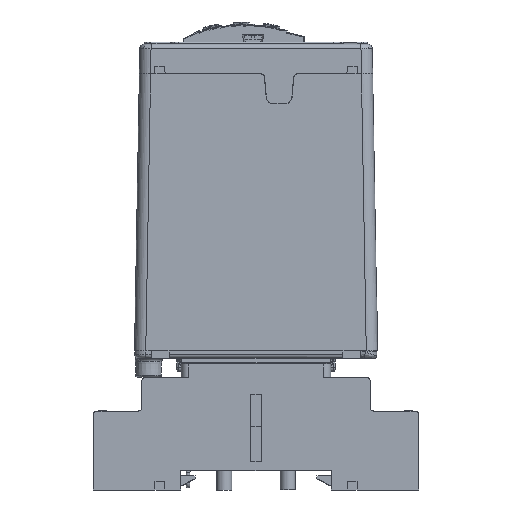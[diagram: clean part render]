
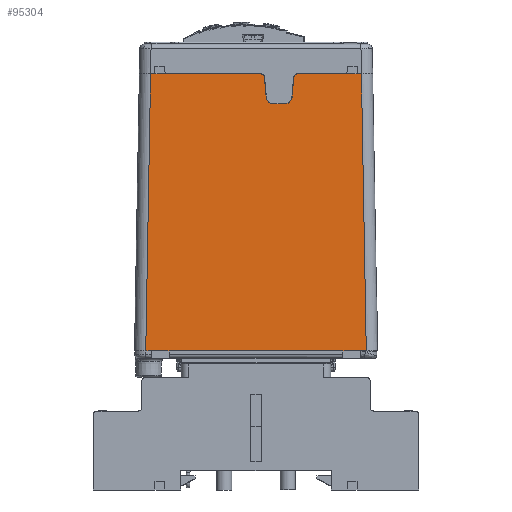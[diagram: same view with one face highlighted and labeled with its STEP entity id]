
A CAD part, left-side view. The second image highlights one B-rep face of the part: STEP entity #95304.
In plain terms, the highlighted planar face has unit normal (-1, 0, 0.018).
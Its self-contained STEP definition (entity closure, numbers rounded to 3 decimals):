
#4412=PLANE('',#101296);
#6232=ELLIPSE('',#101297,1.,1.);
#6233=ELLIPSE('',#101298,1.,1.);
#6234=ELLIPSE('',#101299,2.,2.);
#6235=ELLIPSE('',#101300,2.,2.);
#6724=LINE('',#126579,#16375);
#15246=LINE('',#158722,#24897);
#15249=LINE('',#158728,#24900);
#15271=LINE('',#158789,#24922);
#15275=LINE('',#158796,#24926);
#15285=LINE('',#158816,#24936);
#15293=LINE('',#158829,#24944);
#15307=LINE('',#158864,#24958);
#15308=LINE('',#158866,#24959);
#15309=LINE('',#158868,#24960);
#15310=LINE('',#158869,#24961);
#15311=LINE('',#158870,#24962);
#15312=LINE('',#158872,#24963);
#15313=LINE('',#158874,#24964);
#15314=LINE('',#158875,#24965);
#15315=LINE('',#158879,#24966);
#15316=LINE('',#158881,#24967);
#15317=LINE('',#158884,#24968);
#16375=VECTOR('',#103036,10.);
#24897=VECTOR('',#121508,10.);
#24900=VECTOR('',#121513,10.);
#24922=VECTOR('',#121551,10.);
#24926=VECTOR('',#121555,10.);
#24936=VECTOR('',#121569,10.);
#24944=VECTOR('',#121585,10.);
#24958=VECTOR('',#121615,10.);
#24959=VECTOR('',#121616,10.);
#24960=VECTOR('',#121617,10.);
#24961=VECTOR('',#121618,10.);
#24962=VECTOR('',#121619,10.);
#24963=VECTOR('',#121620,10.);
#24964=VECTOR('',#121621,10.);
#24965=VECTOR('',#121622,10.);
#24966=VECTOR('',#121625,10.);
#24967=VECTOR('',#121628,10.);
#24968=VECTOR('',#121631,10.);
#30568=FACE_OUTER_BOUND('',#35604,.T.);
#35604=EDGE_LOOP('',(#82277,#82278,#82279,#82280,#82281,#82282,#82283,#82284,
#82285,#82286,#82287,#82288,#82289,#82290,#82291,#82292,#82293,#82294,#82295,
#82296,#82297,#82298));
#38302=VERTEX_POINT('',#126520);
#38305=VERTEX_POINT('',#126530);
#38320=VERTEX_POINT('',#126576);
#38321=VERTEX_POINT('',#126578);
#45490=VERTEX_POINT('',#158719);
#45491=VERTEX_POINT('',#158721);
#45492=VERTEX_POINT('',#158725);
#45493=VERTEX_POINT('',#158727);
#45511=VERTEX_POINT('',#158782);
#45513=VERTEX_POINT('',#158786);
#45514=VERTEX_POINT('',#158788);
#45517=VERTEX_POINT('',#158794);
#45526=VERTEX_POINT('',#158827);
#45538=VERTEX_POINT('',#158861);
#45539=VERTEX_POINT('',#158862);
#45540=VERTEX_POINT('',#158865);
#45541=VERTEX_POINT('',#158867);
#45542=VERTEX_POINT('',#158871);
#45543=VERTEX_POINT('',#158873);
#45544=VERTEX_POINT('',#158876);
#45545=VERTEX_POINT('',#158878);
#45546=VERTEX_POINT('',#158882);
#46870=EDGE_CURVE('',#38320,#38321,#6724,.T.);
#57963=EDGE_CURVE('',#45491,#45490,#15246,.T.);
#57966=EDGE_CURVE('',#45493,#45492,#15249,.T.);
#57991=EDGE_CURVE('',#45514,#45513,#15271,.T.);
#57995=EDGE_CURVE('',#45511,#45517,#15275,.T.);
#58005=EDGE_CURVE('',#38302,#38321,#15285,.T.);
#58013=EDGE_CURVE('',#38305,#45526,#15293,.T.);
#58031=EDGE_CURVE('',#45538,#45539,#6232,.T.);
#58032=EDGE_CURVE('',#38305,#45538,#15307,.T.);
#58033=EDGE_CURVE('',#45540,#45526,#15308,.T.);
#58034=EDGE_CURVE('',#45541,#45540,#15309,.T.);
#58035=EDGE_CURVE('',#45491,#45541,#15310,.T.);
#58036=EDGE_CURVE('',#45493,#45490,#15311,.T.);
#58037=EDGE_CURVE('',#45492,#45542,#15312,.T.);
#58038=EDGE_CURVE('',#45543,#45542,#15313,.T.);
#58039=EDGE_CURVE('',#38302,#45543,#15314,.T.);
#58040=EDGE_CURVE('',#45544,#38320,#6233,.T.);
#58041=EDGE_CURVE('',#45544,#45545,#15315,.T.);
#58042=EDGE_CURVE('',#45514,#45545,#6234,.T.);
#58043=EDGE_CURVE('',#45511,#45513,#15316,.T.);
#58044=EDGE_CURVE('',#45546,#45517,#6235,.T.);
#58045=EDGE_CURVE('',#45546,#45539,#15317,.T.);
#82277=ORIENTED_EDGE('',*,*,#58031,.F.);
#82278=ORIENTED_EDGE('',*,*,#58032,.F.);
#82279=ORIENTED_EDGE('',*,*,#58013,.T.);
#82280=ORIENTED_EDGE('',*,*,#58033,.F.);
#82281=ORIENTED_EDGE('',*,*,#58034,.F.);
#82282=ORIENTED_EDGE('',*,*,#58035,.F.);
#82283=ORIENTED_EDGE('',*,*,#57963,.T.);
#82284=ORIENTED_EDGE('',*,*,#58036,.F.);
#82285=ORIENTED_EDGE('',*,*,#57966,.T.);
#82286=ORIENTED_EDGE('',*,*,#58037,.T.);
#82287=ORIENTED_EDGE('',*,*,#58038,.F.);
#82288=ORIENTED_EDGE('',*,*,#58039,.F.);
#82289=ORIENTED_EDGE('',*,*,#58005,.T.);
#82290=ORIENTED_EDGE('',*,*,#46870,.F.);
#82291=ORIENTED_EDGE('',*,*,#58040,.F.);
#82292=ORIENTED_EDGE('',*,*,#58041,.T.);
#82293=ORIENTED_EDGE('',*,*,#58042,.F.);
#82294=ORIENTED_EDGE('',*,*,#57991,.T.);
#82295=ORIENTED_EDGE('',*,*,#58043,.F.);
#82296=ORIENTED_EDGE('',*,*,#57995,.T.);
#82297=ORIENTED_EDGE('',*,*,#58044,.F.);
#82298=ORIENTED_EDGE('',*,*,#58045,.T.);
#95304=ADVANCED_FACE('',(#30568),#4412,.T.);
#101296=AXIS2_PLACEMENT_3D('',#158860,#121611,#121612);
#101297=AXIS2_PLACEMENT_3D('',#158863,#121613,#121614);
#101298=AXIS2_PLACEMENT_3D('',#158877,#121623,#121624);
#101299=AXIS2_PLACEMENT_3D('',#158880,#121626,#121627);
#101300=AXIS2_PLACEMENT_3D('',#158883,#121629,#121630);
#103036=DIRECTION('',(0.,-1.,0.));
#121508=DIRECTION('',(0.,-1.,0.));
#121513=DIRECTION('',(0.,-1.,0.));
#121551=DIRECTION('',(0.,1.,0.));
#121555=DIRECTION('',(0.,1.,0.));
#121569=DIRECTION('',(0.,1.,0.));
#121585=DIRECTION('',(0.,1.,0.));
#121611=DIRECTION('center_axis',(-1.,0.,
0.017));
#121612=DIRECTION('ref_axis',(0.,-1.,0.));
#121613=DIRECTION('center_axis',(1.,0.,
-0.017));
#121614=DIRECTION('ref_axis',(0.017,0.,
1.));
#121615=DIRECTION('',(0.,-1.,0.));
#121616=DIRECTION('',(0.,-1.,0.));
#121617=DIRECTION('',(0.017,-0.017,1.));
#121618=DIRECTION('',(0.,1.,0.));
#121619=DIRECTION('',(0.,1.,0.));
#121620=DIRECTION('',(0.,-1.,0.));
#121621=DIRECTION('',(-0.017,-0.017,-1.));
#121622=DIRECTION('',(0.,-1.,0.));
#121623=DIRECTION('center_axis',(1.,0.,
-0.017));
#121624=DIRECTION('ref_axis',(0.017,0.,
1.));
#121625=DIRECTION('',(-0.017,0.087,-0.996));
#121626=DIRECTION('center_axis',(-1.,0.,
0.017));
#121627=DIRECTION('ref_axis',(-0.017,0.,
-1.));
#121628=DIRECTION('',(0.,-1.,0.));
#121629=DIRECTION('center_axis',(-1.,0.,
0.017));
#121630=DIRECTION('ref_axis',(-0.017,0.,-1.));
#121631=DIRECTION('',(0.017,0.087,0.996));
#126520=CARTESIAN_POINT('',(-21.173,-27.273,113.6));
#126530=CARTESIAN_POINT('',(-21.173,24.274,113.6));
#126576=CARTESIAN_POINT('',(-21.173,-11.082,113.6));
#126578=CARTESIAN_POINT('',(-21.173,-24.274,113.6));
#126579=CARTESIAN_POINT('',(-21.173,-16.25,113.6));
#158719=CARTESIAN_POINT('',(-22.465,23.25,39.6));
#158721=CARTESIAN_POINT('',(-22.465,27.915,39.6));
#158722=CARTESIAN_POINT('',(-22.465,-15.915,39.6));
#158725=CARTESIAN_POINT('',(-22.465,-27.915,39.6));
#158727=CARTESIAN_POINT('',(-22.465,-23.25,39.6));
#158728=CARTESIAN_POINT('',(-22.465,-15.915,39.6));
#158782=CARTESIAN_POINT('',(-21.313,-4.748,105.6));
#158786=CARTESIAN_POINT('',(-21.313,-7.583,105.6));
#158788=CARTESIAN_POINT('',(-21.313,-7.633,105.6));
#158789=CARTESIAN_POINT('',(-21.313,-19.333,105.6));
#158794=CARTESIAN_POINT('',(-21.313,-4.698,105.6));
#158796=CARTESIAN_POINT('',(-21.313,-19.333,105.6));
#158816=CARTESIAN_POINT('',(-21.173,-32.5,113.6));
#158827=CARTESIAN_POINT('',(-21.173,27.274,113.6));
#158829=CARTESIAN_POINT('',(-21.173,-32.5,113.6));
#158860=CARTESIAN_POINT('Origin',(-22.5,-32.5,37.6));
#158861=CARTESIAN_POINT('',(-21.173,-1.249,113.6));
#158862=CARTESIAN_POINT('',(-21.189,-2.245,112.687));
#158863=CARTESIAN_POINT('Origin',(-21.191,-1.249,112.6));
#158864=CARTESIAN_POINT('',(-21.173,-16.25,113.6));
#158865=CARTESIAN_POINT('',(-21.173,28.174,113.6));
#158866=CARTESIAN_POINT('',(-21.173,-16.25,113.6));
#158867=CARTESIAN_POINT('',(-22.465,29.466,39.6));
#158868=CARTESIAN_POINT('',(-22.491,29.491,38.115));
#158869=CARTESIAN_POINT('',(-22.465,-32.5,39.6));
#158870=CARTESIAN_POINT('',(-22.465,-32.5,39.6));
#158871=CARTESIAN_POINT('',(-22.465,-29.466,39.6));
#158872=CARTESIAN_POINT('',(-22.465,-15.915,39.6));
#158873=CARTESIAN_POINT('',(-21.173,-28.174,113.6));
#158874=CARTESIAN_POINT('',(-22.494,-29.495,37.94));
#158875=CARTESIAN_POINT('',(-21.173,-16.25,113.6));
#158876=CARTESIAN_POINT('',(-21.189,-10.085,112.687));
#158877=CARTESIAN_POINT('Origin',(-21.191,-11.082,112.6));
#158878=CARTESIAN_POINT('',(-21.281,-9.625,107.426));
#158879=CARTESIAN_POINT('',(-21.815,-6.95,76.845));
#158880=CARTESIAN_POINT('Origin',(-21.278,-7.633,107.6));
#158881=CARTESIAN_POINT('',(-21.313,-19.333,105.6));
#158882=CARTESIAN_POINT('',(-21.281,-2.705,107.426));
#158883=CARTESIAN_POINT('Origin',(-21.278,-4.698,107.6));
#158884=CARTESIAN_POINT('',(-21.855,-5.579,74.579));
